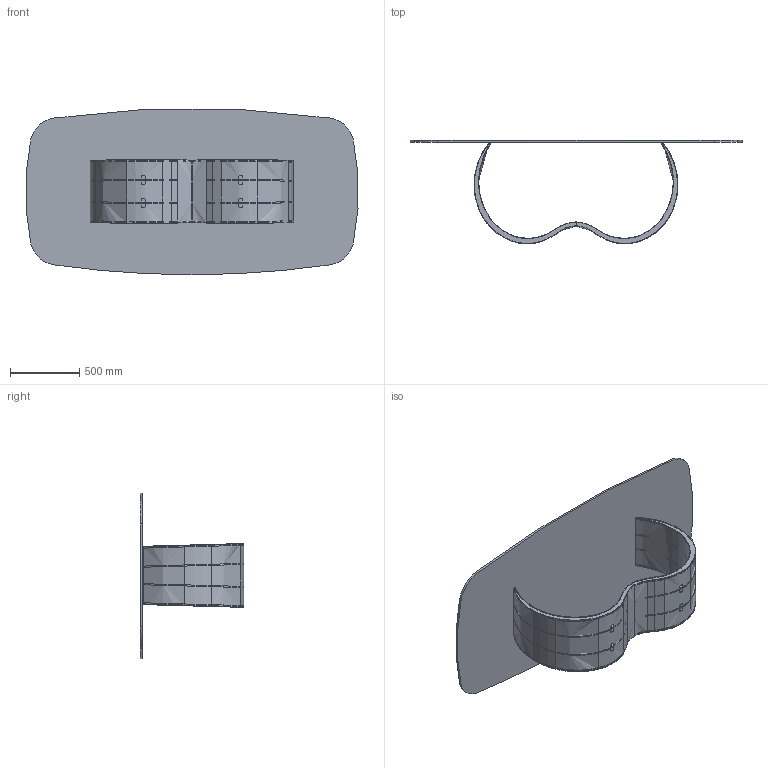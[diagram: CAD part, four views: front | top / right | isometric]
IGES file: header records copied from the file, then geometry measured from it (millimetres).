
Start section: SolidWorks IGES file using analytic representation for surfaces
Global section: file name: Y:\eforma\TECNICO\SOLIDWORKS\E-FORMA\1-TAVOLI\ALISEI 240-300\02 parts\AI43G_Alisei_240x120_Glass Shaped.IGS; native system: SolidWorks 2022; preprocessor: SolidWorks 2022; author: eforma.tech; date: 240801.145051; units: millimetre
Bounding box: 2391.62 x 746 x 1192.03 mm (x, y, z)
Volume: 47026177.8 mm3; surface area: 10910760.1 mm2
Topology: 17 solids, 17 shells, 1039 faces, 2879 edges, 1866 vertices
Faces by surface type: bspline 552, plane 322, revolution 165
